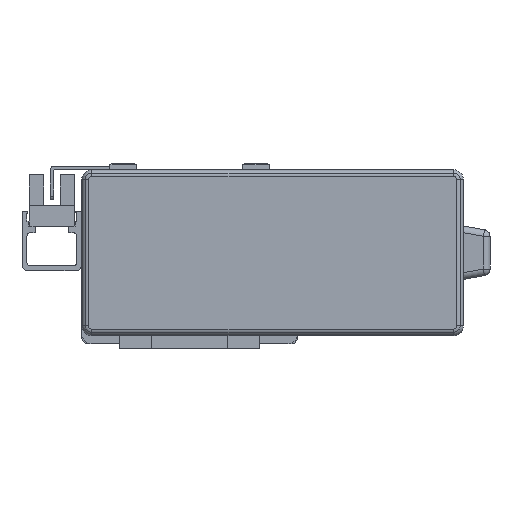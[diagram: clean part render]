
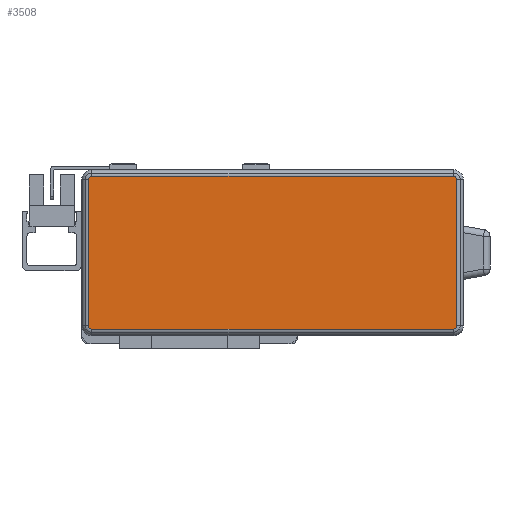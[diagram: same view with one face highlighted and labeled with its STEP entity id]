
A CAD part, left-side view. The second image highlights one B-rep face of the part: STEP entity #3508.
In plain terms, the highlighted planar face has unit normal (-1, 0, 0) as drawn and (0, 0, 1) by its records, which use the part's own axes.
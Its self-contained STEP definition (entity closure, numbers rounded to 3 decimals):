
#309 = VERTEX_POINT ( 'NONE', #1777 ) ;
#494 = VERTEX_POINT ( 'NONE', #10984 ) ;
#514 = VECTOR ( 'NONE', #5224, 1000. ) ;
#954 = DIRECTION ( 'NONE',  ( 0., 0., 1. ) ) ;
#1221 = EDGE_CURVE ( 'NONE', #309, #24962, #24413, .T. ) ;
#1263 = CIRCLE ( 'NONE', #17741, 1. ) ;
#1519 = VECTOR ( 'NONE', #15325, 1000. ) ;
#1687 = ORIENTED_EDGE ( 'NONE', *, *, #24039, .T. ) ;
#1777 = CARTESIAN_POINT ( 'NONE',  ( -54.5, -23., 40. ) ) ;
#2195 = AXIS2_PLACEMENT_3D ( 'NONE', #3757, #10224, #25281 ) ;
#2633 = VERTEX_POINT ( 'NONE', #11393 ) ;
#2679 = EDGE_CURVE ( 'NONE', #9841, #309, #19461, .T. ) ;
#3042 = CARTESIAN_POINT ( 'NONE',  ( 55.5, 0., 40. ) ) ;
#3264 = CARTESIAN_POINT ( 'NONE',  ( 55.5, 22., 40. ) ) ;
#3508 = ADVANCED_FACE ( 'NONE', ( #24150 ), #25097, .F. ) ;
#3757 = CARTESIAN_POINT ( 'NONE',  ( 0., 0., 40. ) ) ;
#4836 = LINE ( 'NONE', #27480, #16258 ) ;
#5105 = EDGE_CURVE ( 'NONE', #13547, #15259, #22032, .T. ) ;
#5224 = DIRECTION ( 'NONE',  ( 0., 1., 0. ) ) ;
#6266 = CARTESIAN_POINT ( 'NONE',  ( -54.5, 22., 40. ) ) ;
#6559 = ORIENTED_EDGE ( 'NONE', *, *, #5105, .T. ) ;
#6979 = DIRECTION ( 'NONE',  ( 0., -1., 0. ) ) ;
#7564 = CARTESIAN_POINT ( 'NONE',  ( 54.5, 23., 40. ) ) ;
#8414 = DIRECTION ( 'NONE',  ( -1., 0., 0. ) ) ;
#8497 = DIRECTION ( 'NONE',  ( 0., 0., 1. ) ) ;
#8806 = DIRECTION ( 'NONE',  ( 0., 0., 1. ) ) ;
#8812 = LINE ( 'NONE', #9138, #25320 ) ;
#9061 = AXIS2_PLACEMENT_3D ( 'NONE', #21681, #8806, #23855 ) ;
#9138 = CARTESIAN_POINT ( 'NONE',  ( -55.5, 0., 40. ) ) ;
#9841 = VERTEX_POINT ( 'NONE', #20325 ) ;
#9843 = CARTESIAN_POINT ( 'NONE',  ( -54.5, 23., 40. ) ) ;
#10224 = DIRECTION ( 'NONE',  ( 0., 0., -1. ) ) ;
#10225 = EDGE_CURVE ( 'NONE', #494, #9841, #8812, .T. ) ;
#10760 = ORIENTED_EDGE ( 'NONE', *, *, #1221, .T. ) ;
#10984 = CARTESIAN_POINT ( 'NONE',  ( -55.5, 22., 40. ) ) ;
#11393 = CARTESIAN_POINT ( 'NONE',  ( 55.5, -22., 40. ) ) ;
#12301 = ORIENTED_EDGE ( 'NONE', *, *, #21608, .T. ) ;
#13547 = VERTEX_POINT ( 'NONE', #3264 ) ;
#13577 = VERTEX_POINT ( 'NONE', #9843 ) ;
#13825 = CARTESIAN_POINT ( 'NONE',  ( -54.5, -22., 40. ) ) ;
#14064 = EDGE_CURVE ( 'NONE', #2633, #13547, #22066, .T. ) ;
#14432 = ORIENTED_EDGE ( 'NONE', *, *, #19200, .T. ) ;
#14588 = DIRECTION ( 'NONE',  ( -1., 0., 0. ) ) ;
#15259 = VERTEX_POINT ( 'NONE', #7564 ) ;
#15325 = DIRECTION ( 'NONE',  ( 1., 0., 0. ) ) ;
#15354 = AXIS2_PLACEMENT_3D ( 'NONE', #6266, #21300, #8414 ) ;
#15996 = DIRECTION ( 'NONE',  ( -1., 0., 0. ) ) ;
#16258 = VECTOR ( 'NONE', #14588, 1000. ) ;
#17312 = AXIS2_PLACEMENT_3D ( 'NONE', #13825, #954, #15996 ) ;
#17498 = CARTESIAN_POINT ( 'NONE',  ( 0., -23., 40. ) ) ;
#17741 = AXIS2_PLACEMENT_3D ( 'NONE', #21380, #8497, #23548 ) ;
#19039 = ORIENTED_EDGE ( 'NONE', *, *, #14064, .T. ) ;
#19200 = EDGE_CURVE ( 'NONE', #13577, #494, #23545, .T. ) ;
#19461 = CIRCLE ( 'NONE', #17312, 1. ) ;
#20307 = ORIENTED_EDGE ( 'NONE', *, *, #10225, .T. ) ;
#20325 = CARTESIAN_POINT ( 'NONE',  ( -55.5, -22., 40. ) ) ;
#21300 = DIRECTION ( 'NONE',  ( 0., 0., 1. ) ) ;
#21380 = CARTESIAN_POINT ( 'NONE',  ( 54.5, -22., 40. ) ) ;
#21608 = EDGE_CURVE ( 'NONE', #24962, #2633, #1263, .T. ) ;
#21681 = CARTESIAN_POINT ( 'NONE',  ( 54.5, 22., 40. ) ) ;
#22032 = CIRCLE ( 'NONE', #9061, 1. ) ;
#22066 = LINE ( 'NONE', #3042, #514 ) ;
#22162 = EDGE_LOOP ( 'NONE', ( #10760, #12301, #19039, #6559, #1687, #14432, #20307, #26176 ) ) ;
#23545 = CIRCLE ( 'NONE', #15354, 1. ) ;
#23548 = DIRECTION ( 'NONE',  ( -1., 0., 0. ) ) ;
#23855 = DIRECTION ( 'NONE',  ( -1., 0., 0. ) ) ;
#24036 = CARTESIAN_POINT ( 'NONE',  ( 54.5, -23., 40. ) ) ;
#24039 = EDGE_CURVE ( 'NONE', #15259, #13577, #4836, .T. ) ;
#24150 = FACE_OUTER_BOUND ( 'NONE', #22162, .T. ) ;
#24413 = LINE ( 'NONE', #17498, #1519 ) ;
#24962 = VERTEX_POINT ( 'NONE', #24036 ) ;
#25097 = PLANE ( 'NONE',  #2195 ) ;
#25281 = DIRECTION ( 'NONE',  ( -1., 0., 0. ) ) ;
#25320 = VECTOR ( 'NONE', #6979, 1000. ) ;
#26176 = ORIENTED_EDGE ( 'NONE', *, *, #2679, .T. ) ;
#27480 = CARTESIAN_POINT ( 'NONE',  ( 0., 23., 40. ) ) ;
